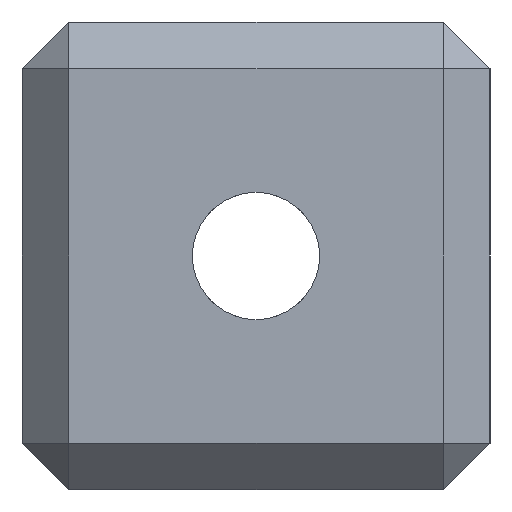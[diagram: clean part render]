
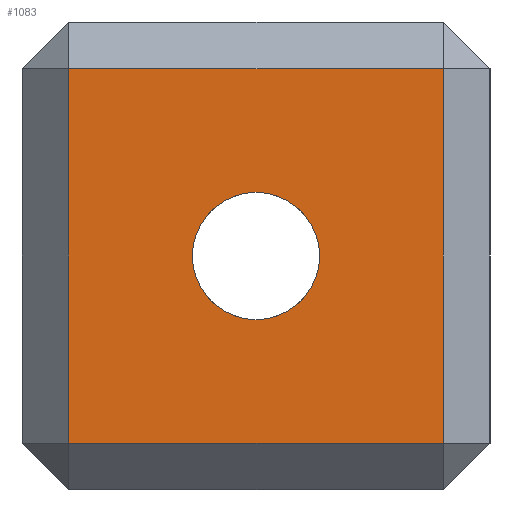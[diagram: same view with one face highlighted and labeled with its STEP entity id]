
A CAD part, left-side view. The second image highlights one B-rep face of the part: STEP entity #1083.
In plain terms, the highlighted planar face has unit normal (-1, 0, 0).
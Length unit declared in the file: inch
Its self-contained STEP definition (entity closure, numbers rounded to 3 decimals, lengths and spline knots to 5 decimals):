
#108 = EDGE_CURVE ( 'NONE', #1704, #698, #801, .T. ) ;
#134 = CARTESIAN_POINT ( 'NONE',  ( -1.5, 0.25, 0.45 ) ) ;
#274 = VERTEX_POINT ( 'NONE', #841 ) ;
#292 = ORIENTED_EDGE ( 'NONE', *, *, #1117, .F. ) ;
#293 = CARTESIAN_POINT ( 'NONE',  ( -1.5, 0.25, 0.05 ) ) ;
#412 = VECTOR ( 'NONE', #1694, 39.37008 ) ;
#515 = VERTEX_POINT ( 'NONE', #1366 ) ;
#527 = CARTESIAN_POINT ( 'NONE',  ( -1.5, 0.25, 0.5 ) ) ;
#557 = EDGE_CURVE ( 'NONE', #637, #515, #1354, .T. ) ;
#578 = CARTESIAN_POINT ( 'NONE',  ( -1.5, -0.2, 0.5 ) ) ;
#632 = CARTESIAN_POINT ( 'NONE',  ( -1.5, 0., 0.182 ) ) ;
#637 = VERTEX_POINT ( 'NONE', #785 ) ;
#660 = EDGE_LOOP ( 'NONE', ( #1758, #1190, #1664, #934 ) ) ;
#667 = AXIS2_PLACEMENT_3D ( 'NONE', #849, #1958, #999 ) ;
#673 = PLANE ( 'NONE',  #765 ) ;
#698 = VERTEX_POINT ( 'NONE', #700 ) ;
#700 = CARTESIAN_POINT ( 'NONE',  ( -1.5, 0., 0.318 ) ) ;
#751 = DIRECTION ( 'NONE',  ( 0., 1., 0. ) ) ;
#765 = AXIS2_PLACEMENT_3D ( 'NONE', #527, #1944, #984 ) ;
#778 = VECTOR ( 'NONE', #751, 39.37008 ) ;
#785 = CARTESIAN_POINT ( 'NONE',  ( -1.5, 0.2, 0.45 ) ) ;
#801 = CIRCLE ( 'NONE', #1052, 0.068 ) ;
#825 = EDGE_CURVE ( 'NONE', #637, #274, #826, .T. ) ;
#826 = LINE ( 'NONE', #1202, #412 ) ;
#841 = CARTESIAN_POINT ( 'NONE',  ( -1.5, 0.2, 0.05 ) ) ;
#846 = VECTOR ( 'NONE', #1835, 39.37008 ) ;
#849 = CARTESIAN_POINT ( 'NONE',  ( -1.5, 0., 0.25 ) ) ;
#851 = FACE_BOUND ( 'NONE', #1513, .T. ) ;
#891 = EDGE_CURVE ( 'NONE', #1866, #274, #1624, .T. ) ;
#926 = DIRECTION ( 'NONE',  ( -1., 0., 0. ) ) ;
#934 = ORIENTED_EDGE ( 'NONE', *, *, #891, .F. ) ;
#984 = DIRECTION ( 'NONE',  ( 0., 0., -1. ) ) ;
#999 = DIRECTION ( 'NONE',  ( 0., 0., -1. ) ) ;
#1052 = AXIS2_PLACEMENT_3D ( 'NONE', #1875, #926, #2033 ) ;
#1083 = ADVANCED_FACE ( 'NONE', ( #1692, #851 ), #673, .F. ) ;
#1117 = EDGE_CURVE ( 'NONE', #698, #1704, #1538, .T. ) ;
#1190 = ORIENTED_EDGE ( 'NONE', *, *, #557, .F. ) ;
#1202 = CARTESIAN_POINT ( 'NONE',  ( -1.5, 0.2, 0.5 ) ) ;
#1354 = LINE ( 'NONE', #134, #1409 ) ;
#1366 = CARTESIAN_POINT ( 'NONE',  ( -1.5, -0.2, 0.45 ) ) ;
#1379 = DIRECTION ( 'NONE',  ( 0., -1., 0. ) ) ;
#1409 = VECTOR ( 'NONE', #1379, 39.37008 ) ;
#1502 = EDGE_CURVE ( 'NONE', #515, #1866, #1689, .T. ) ;
#1513 = EDGE_LOOP ( 'NONE', ( #1601, #292 ) ) ;
#1538 = CIRCLE ( 'NONE', #667, 0.068 ) ;
#1570 = CARTESIAN_POINT ( 'NONE',  ( -1.5, -0.2, 0.05 ) ) ;
#1601 = ORIENTED_EDGE ( 'NONE', *, *, #108, .F. ) ;
#1624 = LINE ( 'NONE', #293, #778 ) ;
#1664 = ORIENTED_EDGE ( 'NONE', *, *, #825, .T. ) ;
#1689 = LINE ( 'NONE', #578, #846 ) ;
#1692 = FACE_OUTER_BOUND ( 'NONE', #660, .T. ) ;
#1694 = DIRECTION ( 'NONE',  ( 0., 0., -1. ) ) ;
#1704 = VERTEX_POINT ( 'NONE', #632 ) ;
#1758 = ORIENTED_EDGE ( 'NONE', *, *, #1502, .F. ) ;
#1835 = DIRECTION ( 'NONE',  ( 0., 0., -1. ) ) ;
#1866 = VERTEX_POINT ( 'NONE', #1570 ) ;
#1875 = CARTESIAN_POINT ( 'NONE',  ( -1.5, 0., 0.25 ) ) ;
#1944 = DIRECTION ( 'NONE',  ( 1., 0., 0. ) ) ;
#1958 = DIRECTION ( 'NONE',  ( -1., 0., 0. ) ) ;
#2033 = DIRECTION ( 'NONE',  ( 0., 0., -1. ) ) ;
